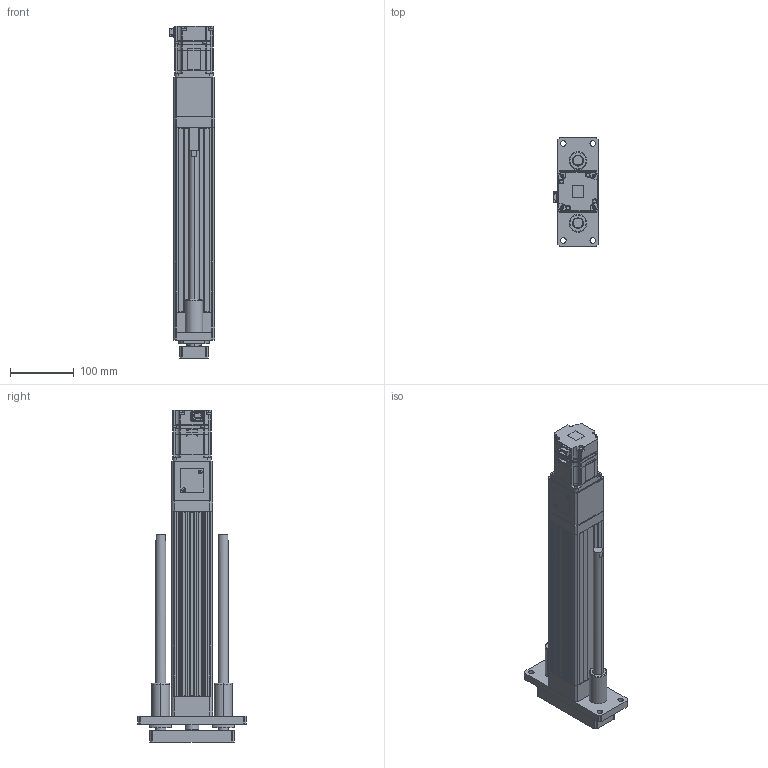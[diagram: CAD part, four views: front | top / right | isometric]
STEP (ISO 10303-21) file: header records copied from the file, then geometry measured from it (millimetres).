
FILE_DESCRIPTION (( 'STEP AP203' ), '1' );
FILE_NAME ('ANS065-GS200-05(10)-W20.STEP', '2019-02-28T08:37:09', ( 'user' ), ( '' ), 'SwSTEP 2.0', 'SolidWorks 2013', '' );
FILE_SCHEMA (( 'CONFIG_CONTROL_DESIGN' ));
Length unit declared in the file: millimetre
Products named in the file (4): ANS065 GS200 VER2; ANS065 ROD ST200 G; sgmjv_02a_a21; ANS065-GS200-05(10)-W20
Assembly tree (3 placements, depth 2):
  ANS065-GS200-05(10)-W20
    ANS065 GS200 VER2
    ANS065 ROD ST200 G
    sgmjv_02a_a21
Bounding box: 71.3 x 170 x 520.6 mm (x, y, z)
Volume: 1655384.1 mm3; surface area: 384537.4 mm2
Topology: 3 solids, 19 shells, 1500 faces, 3817 edges, 2439 vertices
Faces by surface type: plane 832, cylinder 482, cone 182, torus 4
Entity records: 45333 total; most frequent: CARTESIAN_POINT 7996, DIRECTION 7837, ORIENTED_EDGE 7570, EDGE_CURVE 3785, AXIS2_PLACEMENT_3D 2626, LINE 2585, VECTOR 2585, VERTEX_POINT 2439
